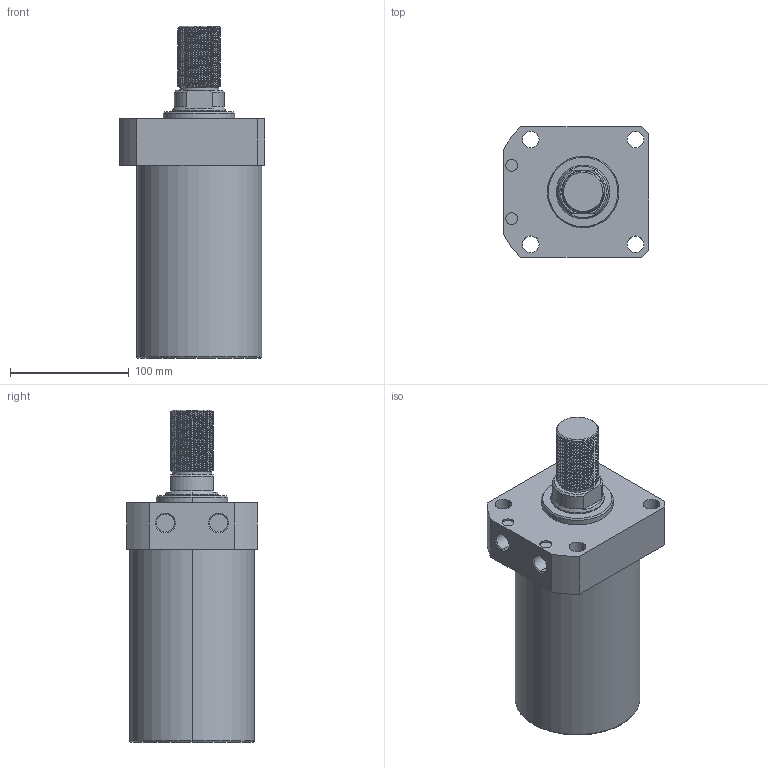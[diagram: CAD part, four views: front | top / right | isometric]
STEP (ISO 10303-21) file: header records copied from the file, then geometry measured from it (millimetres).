
FILE_DESCRIPTION (( 'STEP AP214' ), '1' );
FILE_NAME ('CLLR-105CT-115.STEP', '2020-01-10T05:54:48', ( 'Windows' ), ( 'Microsoft' ), 'SwSTEP 2.0', 'SolidWorks 2015', '' );
FILE_SCHEMA (( 'AUTOMOTIVE_DESIGN' ));
Length unit declared in the file: millimetre
Products named in the file (1): CLLR-105CT-115
Bounding box: 122 x 110 x 279 mm (x, y, z)
Volume: 1975423.5 mm3; surface area: 117528.2 mm2
Topology: 1 solids, 1 shells, 135 faces, 361 edges, 236 vertices
Faces by surface type: cylinder 96, plane 20, cone 15, torus 2, bspline 2
Entity records: 8197 total; most frequent: CARTESIAN_POINT 5093, ORIENTED_EDGE 722, DIRECTION 560, EDGE_CURVE 361, VERTEX_POINT 236, AXIS2_PLACEMENT_3D 214, EDGE_LOOP 151, FACE_OUTER_BOUND 135
